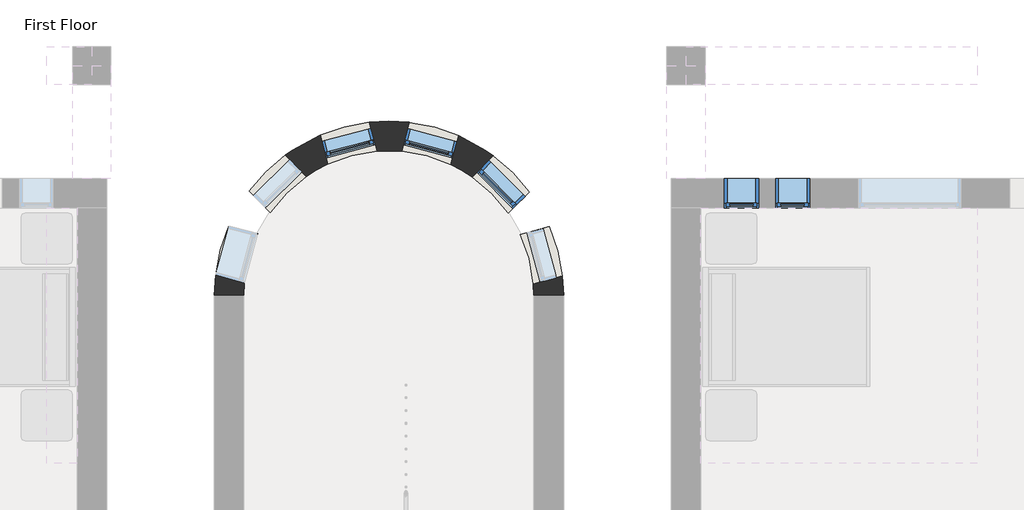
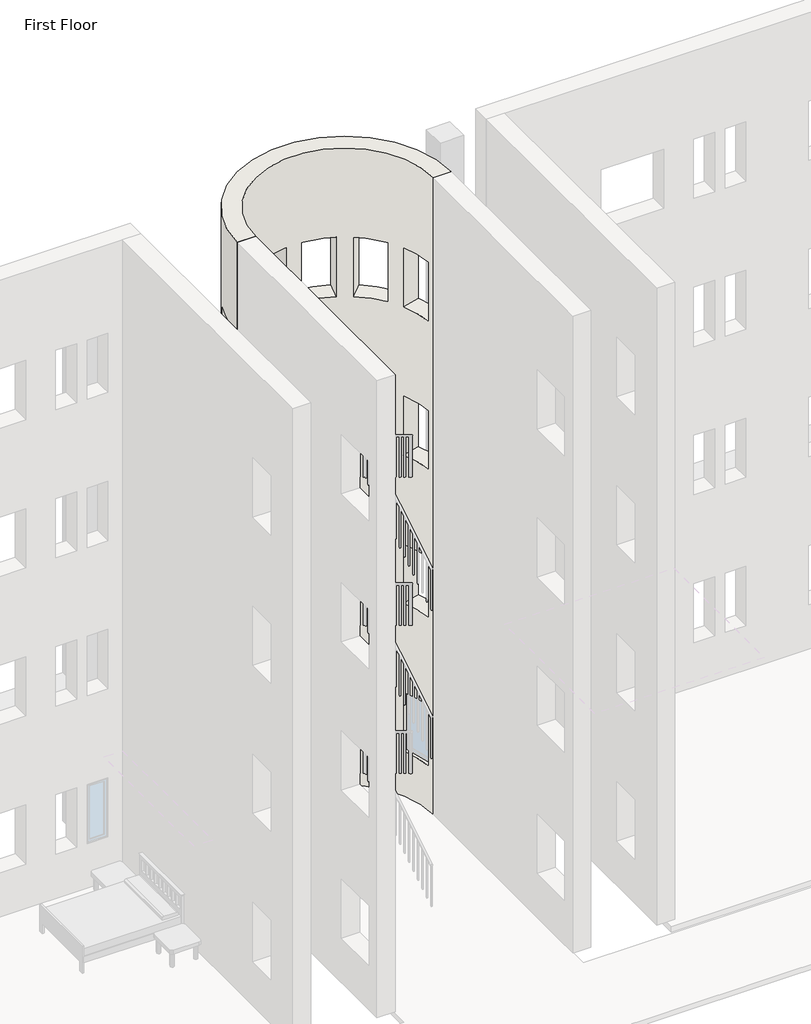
# One storey, part 15 of 21: 5 windows, 1 wall.
"""IFC4 building model written with IfcOpenShell, lengths in millimetres."""

from ifc_helpers import new_model, si_unit, frame, origin, place, context, project, spatial, polyline, circle_curve, transform, mapped, element, save
from ifc_brep_helpers import plane_surface, cylinder_surface, revolved_surface, advanced_brep
from components import window_da97879f, window_80bd9af0

model = new_model("IFC4")

# Units and contexts
model_context = context("Model", 3, world=origin())
ifc_project = project(units=[si_unit("LENGTHUNIT", "METRE", prefix="MILLI")], contexts=[model_context])

# Site, building, storey
site = spatial("IfcSite", under=ifc_project)
building = spatial("IfcBuilding", under=site)
storey = spatial("IfcBuildingStorey", under=building, Name="First Floor", Elevation=0.0)

# Wall
placement = place(None, origin())
element("IfcWall", 1, ObjectType="Exterior - Brick on Mtl. Stud", at=placement, inside=storey, context=model_context, shape_type="AdvancedBrep", body=[
    advanced_brep(
    [(-12853.9589563, 9227.0316867, 13106.4), (-17016.3839563, 9227.0316867, 13106.4), (-16663.9589563, 9227.0316867, 13106.4), (-13206.3839563, 9227.0316867, 13106.4), (-17016.3839563, 9227.0316867, 0.0), (-12853.9589563, 9227.0316867, 0.0), (-13206.3839563, 9227.0316867, 0.0), (-16663.9589563, 9227.0316867, 0.0), (-13022.9261748, 10048.4715527, 8229.6), (-13022.9261748, 10048.4715527, 7010.4), (-12866.9452701, 9459.1650812, 7010.4), (-12866.9452701, 9459.1650812, 8229.6), (-13689.8383973, 10894.5421191, 8229.6), (-13689.8383973, 10894.5421191, 7010.4), (-13260.1017356, 10462.1781965, 7010.4), (-13260.1017356, 10462.1781965, 8229.6), (-14690.4366072, 11293.8046118, 8229.6), (-14690.4366072, 11293.8046118, 7010.4), (-14102.0917799, 11134.234802, 7010.4), (-14102.0917799, 11134.234802, 8229.6), (-15756.6113224, 11139.2769682, 8229.6), (-15756.6113224, 11139.2769682, 7010.4), (-15167.3048508, 11295.2578729, 7010.4), (-15167.3048508, 11295.2578729, 8229.6), (-16602.6818887, 10472.3647457, 8229.6), (-16602.6818887, 10472.3647457, 7010.4), (-16170.3179661, 10902.1014074, 7010.4), (-16170.3179661, 10902.1014074, 8229.6), (-17001.9443814, 9471.7665358, 8229.6), (-17001.9443814, 9471.7665358, 7010.4), (-16842.3745716, 10060.1113631, 7010.4), (-16842.3745716, 10060.1113631, 8229.6), (-13022.9261748, 10048.4715527, 5181.6), (-13022.9261748, 10048.4715527, 3962.4), (-12866.9452701, 9459.1650812, 3962.4), (-12866.9452701, 9459.1650812, 5181.6), (-13689.8383973, 10894.5421191, 5181.6), (-13689.8383973, 10894.5421191, 3962.4), (-13260.1017356, 10462.1781965, 3962.4), (-13260.1017356, 10462.1781965, 5181.6), (-14690.4366072, 11293.8046118, 5181.6), (-14690.4366072, 11293.8046118, 3962.4), (-14102.0917799, 11134.234802, 3962.4), (-14102.0917799, 11134.234802, 5181.6), (-15756.6113224, 11139.2769682, 5181.6), (-15756.6113224, 11139.2769682, 3962.4), (-15167.3048508, 11295.2578729, 3962.4), (-15167.3048508, 11295.2578729, 5181.6), (-16602.6818887, 10472.3647457, 5181.6), (-16602.6818887, 10472.3647457, 3962.4), (-16170.3179661, 10902.1014074, 3962.4), (-16170.3179661, 10902.1014074, 5181.6), (-17001.9443814, 9471.7665358, 5181.6), (-17001.9443814, 9471.7665358, 3962.4), (-16842.3745716, 10060.1113631, 3962.4), (-16842.3745716, 10060.1113631, 5181.6), (-13022.9261748, 10048.4715527, 11277.6), (-13022.9261748, 10048.4715527, 10058.4), (-12866.9452701, 9459.1650812, 10058.4), (-12866.9452701, 9459.1650812, 11277.6), (-13689.8383973, 10894.5421191, 11277.6), (-13689.8383973, 10894.5421191, 10058.4), (-13260.1017356, 10462.1781965, 10058.4), (-13260.1017356, 10462.1781965, 11277.6), (-14690.4366072, 11293.8046118, 11277.6), (-14690.4366072, 11293.8046118, 10058.4), (-14102.0917799, 11134.234802, 10058.4), (-14102.0917799, 11134.234802, 11277.6), (-15756.6113224, 11139.2769682, 11277.6), (-15756.6113224, 11139.2769682, 10058.4), (-15167.3048508, 11295.2578729, 10058.4), (-15167.3048508, 11295.2578729, 11277.6), (-16602.6818887, 10472.3647457, 11277.6), (-16602.6818887, 10472.3647457, 10058.4), (-16170.3179661, 10902.1014074, 10058.4), (-16170.3179661, 10902.1014074, 11277.6), (-17001.9443814, 9471.7665358, 11277.6), (-17001.9443814, 9471.7665358, 10058.4), (-16842.3745716, 10060.1113631, 10058.4), (-16842.3745716, 10060.1113631, 11277.6), (-13022.9261748, 10048.4715527, 2133.6), (-13022.9261748, 10048.4715527, 914.4), (-12866.9452701, 9459.1650812, 914.4), (-12866.9452701, 9459.1650812, 2133.6), (-13689.8383973, 10894.5421191, 2133.6), (-13689.8383973, 10894.5421191, 914.4), (-13260.1017356, 10462.1781965, 914.4), (-13260.1017356, 10462.1781965, 2133.6), (-14690.4366072, 11293.8046118, 2133.6), (-14690.4366072, 11293.8046118, 914.4), (-14102.0917799, 11134.234802, 914.4), (-14102.0917799, 11134.234802, 2133.6), (-15756.6113224, 11139.2769682, 2133.6), (-15756.6113224, 11139.2769682, 914.4), (-15167.3048508, 11295.2578729, 914.4), (-15167.3048508, 11295.2578729, 2133.6), (-16602.6818887, 10472.3647457, 2133.6), (-16602.6818887, 10472.3647457, 914.4), (-16170.3179661, 10902.1014074, 914.4), (-16170.3179661, 10902.1014074, 2133.6), (-17001.9443814, 9471.7665358, 914.4), (-16842.3745716, 10060.1113631, 914.4), (-16842.3745716, 10060.1113631, 2133.6), (-17001.9443814, 9471.7665358, 2133.6), (-13368.1055834, 9957.1075528, 7010.4), (-13368.1055834, 9957.1075528, 8229.6), (-13212.1246787, 9367.8010813, 8229.6), (-13212.1246787, 9367.8010813, 7010.4), (-13943.090534, 10642.8288698, 7010.4), (-13943.090534, 10642.8288698, 8229.6), (-13513.3538723, 10210.4649472, 8229.6), (-13513.3538723, 10210.4649472, 7010.4), (-14783.9027666, 10949.188475, 7010.4), (-14783.9027666, 10949.188475, 8229.6), (-14195.5579393, 10789.6186653, 8229.6), (-14195.5579393, 10789.6186653, 7010.4), (-15665.2473224, 10794.0975596, 7010.4), (-15665.2473224, 10794.0975596, 8229.6), (-15075.9408509, 10950.0784643, 8229.6), (-15075.9408509, 10950.0784643, 7010.4), (-16350.9686395, 10219.112609, 7010.4), (-16350.9686395, 10219.112609, 8229.6), (-15918.6047169, 10648.8492707, 8229.6), (-15918.6047169, 10648.8492707, 7010.4), (-16657.3282447, 9378.3003764, 7010.4), (-16657.3282447, 9378.3003764, 8229.6), (-16497.7584349, 9966.6452037, 8229.6), (-16497.7584349, 9966.6452037, 7010.4), (-13368.1055834, 9957.1075528, 3962.4), (-13368.1055834, 9957.1075528, 5181.6), (-13212.1246787, 9367.8010813, 5181.6), (-13212.1246787, 9367.8010813, 3962.4), (-13943.090534, 10642.8288698, 3962.4), (-13943.090534, 10642.8288698, 5181.6), (-13513.3538723, 10210.4649472, 5181.6), (-13513.3538723, 10210.4649472, 3962.4), (-14783.9027666, 10949.188475, 3962.4), (-14783.9027666, 10949.188475, 5181.6), (-14195.5579393, 10789.6186653, 5181.6), (-14195.5579393, 10789.6186653, 3962.4), (-15665.2473224, 10794.0975596, 3962.4), (-15665.2473224, 10794.0975596, 5181.6), (-15075.9408509, 10950.0784643, 5181.6), (-15075.9408509, 10950.0784643, 3962.4), (-16350.9686395, 10219.112609, 3962.4), (-16350.9686395, 10219.112609, 5181.6), (-15918.6047169, 10648.8492707, 5181.6), (-15918.6047169, 10648.8492707, 3962.4), (-16657.3282447, 9378.3003764, 3962.4), (-16657.3282447, 9378.3003764, 5181.6), (-16497.7584349, 9966.6452037, 5181.6), (-16497.7584349, 9966.6452037, 3962.4), (-13368.1055834, 9957.1075528, 10058.4), (-13368.1055834, 9957.1075528, 11277.6), (-13212.1246787, 9367.8010813, 11277.6), (-13212.1246787, 9367.8010813, 10058.4), (-13943.090534, 10642.8288698, 10058.4), (-13943.090534, 10642.8288698, 11277.6), (-13513.3538723, 10210.4649472, 11277.6), (-13513.3538723, 10210.4649472, 10058.4), (-14783.9027666, 10949.188475, 10058.4), (-14783.9027666, 10949.188475, 11277.6), (-14195.5579393, 10789.6186653, 11277.6), (-14195.5579393, 10789.6186653, 10058.4), (-15665.2473224, 10794.0975596, 10058.4), (-15665.2473224, 10794.0975596, 11277.6), (-15075.9408509, 10950.0784643, 11277.6), (-15075.9408509, 10950.0784643, 10058.4), (-16350.9686395, 10219.112609, 10058.4), (-16350.9686395, 10219.112609, 11277.6), (-15918.6047169, 10648.8492707, 11277.6), (-15918.6047169, 10648.8492707, 10058.4), (-16657.3282447, 9378.3003764, 10058.4), (-16657.3282447, 9378.3003764, 11277.6), (-16497.7584349, 9966.6452037, 11277.6), (-16497.7584349, 9966.6452037, 10058.4), (-13368.1055834, 9957.1075528, 914.4), (-13368.1055834, 9957.1075528, 2133.6), (-13212.1246787, 9367.8010813, 2133.6), (-13212.1246787, 9367.8010813, 914.4), (-13943.090534, 10642.8288698, 914.4), (-13943.090534, 10642.8288698, 2133.6), (-13513.3538723, 10210.4649472, 2133.6), (-13513.3538723, 10210.4649472, 914.4), (-14783.9027666, 10949.188475, 914.4), (-14783.9027666, 10949.188475, 2133.6), (-14195.5579393, 10789.6186653, 2133.6), (-14195.5579393, 10789.6186653, 914.4), (-15665.2473224, 10794.0975596, 914.4), (-15665.2473224, 10794.0975596, 2133.6), (-15075.9408509, 10950.0784643, 2133.6), (-15075.9408509, 10950.0784643, 914.4), (-16350.9686395, 10219.112609, 914.4), (-16350.9686395, 10219.112609, 2133.6), (-15918.6047169, 10648.8492707, 2133.6), (-15918.6047169, 10648.8492707, 914.4), (-16497.7584349, 9966.6452037, 914.4), (-16657.3282447, 9378.3003764, 914.4), (-16657.3282447, 9378.3003764, 2133.6), (-16497.7584349, 9966.6452037, 2133.6)],
    [
        (0, 1, circle_curve(frame((-14935.1714563, 9227.0316867, 13106.4), z_axis=(0.0, 0.0, 1.0), x_axis=(1.0, 0.0, 0.0)), 2081.2125)),
        (1, 2),
        (2, 3, circle_curve(frame((-14935.1714563, 9227.0316867, 13106.4), z_axis=(0.0, 0.0, -1.0), x_axis=(1.0, 0.0, 0.0)), 1728.7875)),
        (3, 0),
        (4, 5, circle_curve(frame((-14935.1714563, 9227.0316867, 0.0), z_axis=(0.0, 0.0, -1.0), x_axis=(1.0, 0.0, 0.0)), 2081.2125)),
        (5, 6),
        (6, 7, circle_curve(frame((-14935.1714563, 9227.0316867, 0.0), z_axis=(0.0, 0.0, 1.0), x_axis=(1.0, 0.0, 0.0)), 1728.7875)),
        (7, 4),
        (0, 5),
        (4, 1),
        (8, 9),
        (9, 10, circle_curve(frame((-14935.1714563, 9227.0316867, 7010.4), z_axis=(0.0, 0.0, -1.0), x_axis=(1.0, 0.0, 0.0)), 2081.2125)),
        (10, 11),
        (11, 8, circle_curve(frame((-14935.1714563, 9227.0316867, 8229.6), z_axis=(0.0, 0.0, 1.0), x_axis=(1.0, 0.0, 0.0)), 2081.2125)),
        (12, 13),
        (13, 14, circle_curve(frame((-14935.1714563, 9227.0316867, 7010.4), z_axis=(0.0, 0.0, -1.0), x_axis=(1.0, 0.0, 0.0)), 2081.2125)),
        (14, 15),
        (15, 12, circle_curve(frame((-14935.1714563, 9227.0316867, 8229.6), z_axis=(0.0, 0.0, 1.0), x_axis=(1.0, 0.0, 0.0)), 2081.2125)),
        (16, 17),
        (17, 18, circle_curve(frame((-14935.1714563, 9227.0316867, 7010.4), z_axis=(0.0, 0.0, -1.0), x_axis=(1.0, 0.0, 0.0)), 2081.2125)),
        (18, 19),
        (19, 16, circle_curve(frame((-14935.1714563, 9227.0316867, 8229.6), z_axis=(0.0, 0.0, 1.0), x_axis=(1.0, 0.0, 0.0)), 2081.2125)),
        (20, 21),
        (21, 22, circle_curve(frame((-14935.1714563, 9227.0316867, 7010.4), z_axis=(0.0, 0.0, -1.0), x_axis=(1.0, 0.0, 0.0)), 2081.2125)),
        (22, 23),
        (23, 20, circle_curve(frame((-14935.1714563, 9227.0316867, 8229.6), z_axis=(0.0, 0.0, 1.0), x_axis=(1.0, 0.0, 0.0)), 2081.2125)),
        (24, 25),
        (25, 26, circle_curve(frame((-14935.1714563, 9227.0316867, 7010.4), z_axis=(0.0, 0.0, -1.0), x_axis=(1.0, 0.0, 0.0)), 2081.2125)),
        (26, 27),
        (27, 24, circle_curve(frame((-14935.1714563, 9227.0316867, 8229.6), z_axis=(0.0, 0.0, 1.0), x_axis=(1.0, 0.0, 0.0)), 2081.2125)),
        (28, 29),
        (29, 30, circle_curve(frame((-14935.1714563, 9227.0316867, 7010.4), z_axis=(0.0, 0.0, -1.0), x_axis=(1.0, 0.0, 0.0)), 2081.2125)),
        (30, 31),
        (31, 28, circle_curve(frame((-14935.1714563, 9227.0316867, 8229.6), z_axis=(0.0, 0.0, 1.0), x_axis=(1.0, 0.0, 0.0)), 2081.2125)),
        (32, 33),
        (33, 34, circle_curve(frame((-14935.1714563, 9227.0316867, 3962.4), z_axis=(0.0, 0.0, -1.0), x_axis=(1.0, 0.0, 0.0)), 2081.2125)),
        (34, 35),
        (35, 32, circle_curve(frame((-14935.1714563, 9227.0316867, 5181.6), z_axis=(0.0, 0.0, 1.0), x_axis=(1.0, 0.0, 0.0)), 2081.2125)),
        (36, 37),
        (37, 38, circle_curve(frame((-14935.1714563, 9227.0316867, 3962.4), z_axis=(0.0, 0.0, -1.0), x_axis=(1.0, 0.0, 0.0)), 2081.2125)),
        (38, 39),
        (39, 36, circle_curve(frame((-14935.1714563, 9227.0316867, 5181.6), z_axis=(0.0, 0.0, 1.0), x_axis=(1.0, 0.0, 0.0)), 2081.2125)),
        (40, 41),
        (41, 42, circle_curve(frame((-14935.1714563, 9227.0316867, 3962.4), z_axis=(0.0, 0.0, -1.0), x_axis=(1.0, 0.0, 0.0)), 2081.2125)),
        (42, 43),
        (43, 40, circle_curve(frame((-14935.1714563, 9227.0316867, 5181.6), z_axis=(0.0, 0.0, 1.0), x_axis=(1.0, 0.0, 0.0)), 2081.2125)),
        (44, 45),
        (45, 46, circle_curve(frame((-14935.1714563, 9227.0316867, 3962.4), z_axis=(0.0, 0.0, -1.0), x_axis=(1.0, 0.0, 0.0)), 2081.2125)),
        (46, 47),
        (47, 44, circle_curve(frame((-14935.1714563, 9227.0316867, 5181.6), z_axis=(0.0, 0.0, 1.0), x_axis=(1.0, 0.0, 0.0)), 2081.2125)),
        (48, 49),
        (49, 50, circle_curve(frame((-14935.1714563, 9227.0316867, 3962.4), z_axis=(0.0, 0.0, -1.0), x_axis=(1.0, 0.0, 0.0)), 2081.2125)),
        (50, 51),
        (51, 48, circle_curve(frame((-14935.1714563, 9227.0316867, 5181.6), z_axis=(0.0, 0.0, 1.0), x_axis=(1.0, 0.0, 0.0)), 2081.2125)),
        (52, 53),
        (53, 54, circle_curve(frame((-14935.1714563, 9227.0316867, 3962.4), z_axis=(0.0, 0.0, -1.0), x_axis=(1.0, 0.0, 0.0)), 2081.2125)),
        (54, 55),
        (55, 52, circle_curve(frame((-14935.1714563, 9227.0316867, 5181.6), z_axis=(0.0, 0.0, 1.0), x_axis=(1.0, 0.0, 0.0)), 2081.2125)),
        (56, 57),
        (57, 58, circle_curve(frame((-14935.1714563, 9227.0316867, 10058.4), z_axis=(0.0, 0.0, -1.0), x_axis=(1.0, 0.0, 0.0)), 2081.2125)),
        (58, 59),
        (59, 56, circle_curve(frame((-14935.1714563, 9227.0316867, 11277.6), z_axis=(0.0, 0.0, 1.0), x_axis=(1.0, 0.0, 0.0)), 2081.2125)),
        (60, 61),
        (61, 62, circle_curve(frame((-14935.1714563, 9227.0316867, 10058.4), z_axis=(0.0, 0.0, -1.0), x_axis=(1.0, 0.0, 0.0)), 2081.2125)),
        (62, 63),
        (63, 60, circle_curve(frame((-14935.1714563, 9227.0316867, 11277.6), z_axis=(0.0, 0.0, 1.0), x_axis=(1.0, 0.0, 0.0)), 2081.2125)),
        (64, 65),
        (65, 66, circle_curve(frame((-14935.1714563, 9227.0316867, 10058.4), z_axis=(0.0, 0.0, -1.0), x_axis=(1.0, 0.0, 0.0)), 2081.2125)),
        (66, 67),
        (67, 64, circle_curve(frame((-14935.1714563, 9227.0316867, 11277.6), z_axis=(0.0, 0.0, 1.0), x_axis=(1.0, 0.0, 0.0)), 2081.2125)),
        (68, 69),
        (69, 70, circle_curve(frame((-14935.1714563, 9227.0316867, 10058.4), z_axis=(0.0, 0.0, -1.0), x_axis=(1.0, 0.0, 0.0)), 2081.2125)),
        (70, 71),
        (71, 68, circle_curve(frame((-14935.1714563, 9227.0316867, 11277.6), z_axis=(0.0, 0.0, 1.0), x_axis=(1.0, 0.0, 0.0)), 2081.2125)),
        (72, 73),
        (73, 74, circle_curve(frame((-14935.1714563, 9227.0316867, 10058.4), z_axis=(0.0, 0.0, -1.0), x_axis=(1.0, 0.0, 0.0)), 2081.2125)),
        (74, 75),
        (75, 72, circle_curve(frame((-14935.1714563, 9227.0316867, 11277.6), z_axis=(0.0, 0.0, 1.0), x_axis=(1.0, 0.0, 0.0)), 2081.2125)),
        (76, 77),
        (77, 78, circle_curve(frame((-14935.1714563, 9227.0316867, 10058.4), z_axis=(0.0, 0.0, -1.0), x_axis=(1.0, 0.0, 0.0)), 2081.2125)),
        (78, 79),
        (79, 76, circle_curve(frame((-14935.1714563, 9227.0316867, 11277.6), z_axis=(0.0, 0.0, 1.0), x_axis=(1.0, 0.0, 0.0)), 2081.2125)),
        (80, 81),
        (81, 82, circle_curve(frame((-14935.1714563, 9227.0316867, 914.4), z_axis=(0.0, 0.0, -1.0), x_axis=(1.0, 0.0, 0.0)), 2081.2125)),
        (82, 83),
        (83, 80, circle_curve(frame((-14935.1714563, 9227.0316867, 2133.6), z_axis=(0.0, 0.0, 1.0), x_axis=(1.0, 0.0, 0.0)), 2081.2125)),
        (84, 85),
        (85, 86, circle_curve(frame((-14935.1714563, 9227.0316867, 914.4), z_axis=(0.0, 0.0, -1.0), x_axis=(1.0, 0.0, 0.0)), 2081.2125)),
        (86, 87),
        (87, 84, circle_curve(frame((-14935.1714563, 9227.0316867, 2133.6), z_axis=(0.0, 0.0, 1.0), x_axis=(1.0, 0.0, 0.0)), 2081.2125)),
        (88, 89),
        (89, 90, circle_curve(frame((-14935.1714563, 9227.0316867, 914.4), z_axis=(0.0, 0.0, -1.0), x_axis=(1.0, 0.0, 0.0)), 2081.2125)),
        (90, 91),
        (91, 88, circle_curve(frame((-14935.1714563, 9227.0316867, 2133.6), z_axis=(0.0, 0.0, 1.0), x_axis=(1.0, 0.0, 0.0)), 2081.2125)),
        (92, 93),
        (93, 94, circle_curve(frame((-14935.1714563, 9227.0316867, 914.4), z_axis=(0.0, 0.0, -1.0), x_axis=(1.0, 0.0, 0.0)), 2081.2125)),
        (94, 95),
        (95, 92, circle_curve(frame((-14935.1714563, 9227.0316867, 2133.6), z_axis=(0.0, 0.0, 1.0), x_axis=(1.0, 0.0, 0.0)), 2081.2125)),
        (96, 97),
        (97, 98, circle_curve(frame((-14935.1714563, 9227.0316867, 914.4), z_axis=(0.0, 0.0, -1.0), x_axis=(1.0, 0.0, 0.0)), 2081.2125)),
        (98, 99),
        (99, 96, circle_curve(frame((-14935.1714563, 9227.0316867, 2133.6), z_axis=(0.0, 0.0, 1.0), x_axis=(1.0, 0.0, 0.0)), 2081.2125)),
        (100, 101, circle_curve(frame((-14935.1714563, 9227.0316867, 914.4), z_axis=(0.0, 0.0, -1.0), x_axis=(1.0, 0.0, 0.0)), 2081.2125)),
        (101, 102),
        (102, 103, circle_curve(frame((-14935.1714563, 9227.0316867, 2133.6), z_axis=(0.0, 0.0, 1.0), x_axis=(1.0, 0.0, 0.0)), 2081.2125)),
        (103, 100),
        (7, 2),
        (6, 3),
        (104, 105),
        (105, 106, circle_curve(frame((-14935.1714563, 9227.0316867, 8229.6), z_axis=(0.0, 0.0, -1.0), x_axis=(1.0, 0.0, 0.0)), 1728.7875)),
        (106, 107),
        (107, 104, circle_curve(frame((-14935.1714563, 9227.0316867, 7010.4), z_axis=(0.0, 0.0, 1.0), x_axis=(1.0, 0.0, 0.0)), 1728.7875)),
        (108, 109),
        (109, 110, circle_curve(frame((-14935.1714563, 9227.0316867, 8229.6), z_axis=(0.0, 0.0, -1.0), x_axis=(1.0, 0.0, 0.0)), 1728.7875)),
        (110, 111),
        (111, 108, circle_curve(frame((-14935.1714563, 9227.0316867, 7010.4), z_axis=(0.0, 0.0, 1.0), x_axis=(1.0, 0.0, 0.0)), 1728.7875)),
        (112, 113),
        (113, 114, circle_curve(frame((-14935.1714563, 9227.0316867, 8229.6), z_axis=(0.0, 0.0, -1.0), x_axis=(1.0, 0.0, 0.0)), 1728.7875)),
        (114, 115),
        (115, 112, circle_curve(frame((-14935.1714563, 9227.0316867, 7010.4), z_axis=(0.0, 0.0, 1.0), x_axis=(1.0, 0.0, 0.0)), 1728.7875)),
        (116, 117),
        (117, 118, circle_curve(frame((-14935.1714563, 9227.0316867, 8229.6), z_axis=(0.0, 0.0, -1.0), x_axis=(1.0, 0.0, 0.0)), 1728.7875)),
        (118, 119),
        (119, 116, circle_curve(frame((-14935.1714563, 9227.0316867, 7010.4), z_axis=(0.0, 0.0, 1.0), x_axis=(1.0, 0.0, 0.0)), 1728.7875)),
        (120, 121),
        (121, 122, circle_curve(frame((-14935.1714563, 9227.0316867, 8229.6), z_axis=(0.0, 0.0, -1.0), x_axis=(1.0, 0.0, 0.0)), 1728.7875)),
        (122, 123),
        (123, 120, circle_curve(frame((-14935.1714563, 9227.0316867, 7010.4), z_axis=(0.0, 0.0, 1.0), x_axis=(1.0, 0.0, 0.0)), 1728.7875)),
        (124, 125),
        (125, 126, circle_curve(frame((-14935.1714563, 9227.0316867, 8229.6), z_axis=(0.0, 0.0, -1.0), x_axis=(1.0, 0.0, 0.0)), 1728.7875)),
        (126, 127),
        (127, 124, circle_curve(frame((-14935.1714563, 9227.0316867, 7010.4), z_axis=(0.0, 0.0, 1.0), x_axis=(1.0, 0.0, 0.0)), 1728.7875)),
        (128, 129),
        (129, 130, circle_curve(frame((-14935.1714563, 9227.0316867, 5181.6), z_axis=(0.0, 0.0, -1.0), x_axis=(1.0, 0.0, 0.0)), 1728.7875)),
        (130, 131),
        (131, 128, circle_curve(frame((-14935.1714563, 9227.0316867, 3962.4), z_axis=(0.0, 0.0, 1.0), x_axis=(1.0, 0.0, 0.0)), 1728.7875)),
        (132, 133),
        (133, 134, circle_curve(frame((-14935.1714563, 9227.0316867, 5181.6), z_axis=(0.0, 0.0, -1.0), x_axis=(1.0, 0.0, 0.0)), 1728.7875)),
        (134, 135),
        (135, 132, circle_curve(frame((-14935.1714563, 9227.0316867, 3962.4), z_axis=(0.0, 0.0, 1.0), x_axis=(1.0, 0.0, 0.0)), 1728.7875)),
        (136, 137),
        (137, 138, circle_curve(frame((-14935.1714563, 9227.0316867, 5181.6), z_axis=(0.0, 0.0, -1.0), x_axis=(1.0, 0.0, 0.0)), 1728.7875)),
        (138, 139),
        (139, 136, circle_curve(frame((-14935.1714563, 9227.0316867, 3962.4), z_axis=(0.0, 0.0, 1.0), x_axis=(1.0, 0.0, 0.0)), 1728.7875)),
        (140, 141),
        (141, 142, circle_curve(frame((-14935.1714563, 9227.0316867, 5181.6), z_axis=(0.0, 0.0, -1.0), x_axis=(1.0, 0.0, 0.0)), 1728.7875)),
        (142, 143),
        (143, 140, circle_curve(frame((-14935.1714563, 9227.0316867, 3962.4), z_axis=(0.0, 0.0, 1.0), x_axis=(1.0, 0.0, 0.0)), 1728.7875)),
        (144, 145),
        (145, 146, circle_curve(frame((-14935.1714563, 9227.0316867, 5181.6), z_axis=(0.0, 0.0, -1.0), x_axis=(1.0, 0.0, 0.0)), 1728.7875)),
        (146, 147),
        (147, 144, circle_curve(frame((-14935.1714563, 9227.0316867, 3962.4), z_axis=(0.0, 0.0, 1.0), x_axis=(1.0, 0.0, 0.0)), 1728.7875)),
        (148, 149),
        (149, 150, circle_curve(frame((-14935.1714563, 9227.0316867, 5181.6), z_axis=(0.0, 0.0, -1.0), x_axis=(1.0, 0.0, 0.0)), 1728.7875)),
        (150, 151),
        (151, 148, circle_curve(frame((-14935.1714563, 9227.0316867, 3962.4), z_axis=(0.0, 0.0, 1.0), x_axis=(1.0, 0.0, 0.0)), 1728.7875)),
        (152, 153),
        (153, 154, circle_curve(frame((-14935.1714563, 9227.0316867, 11277.6), z_axis=(0.0, 0.0, -1.0), x_axis=(1.0, 0.0, 0.0)), 1728.7875)),
        (154, 155),
        (155, 152, circle_curve(frame((-14935.1714563, 9227.0316867, 10058.4), z_axis=(0.0, 0.0, 1.0), x_axis=(1.0, 0.0, 0.0)), 1728.7875)),
        (156, 157),
        (157, 158, circle_curve(frame((-14935.1714563, 9227.0316867, 11277.6), z_axis=(0.0, 0.0, -1.0), x_axis=(1.0, 0.0, 0.0)), 1728.7875)),
        (158, 159),
        (159, 156, circle_curve(frame((-14935.1714563, 9227.0316867, 10058.4), z_axis=(0.0, 0.0, 1.0), x_axis=(1.0, 0.0, 0.0)), 1728.7875)),
        (160, 161),
        (161, 162, circle_curve(frame((-14935.1714563, 9227.0316867, 11277.6), z_axis=(0.0, 0.0, -1.0), x_axis=(1.0, 0.0, 0.0)), 1728.7875)),
        (162, 163),
        (163, 160, circle_curve(frame((-14935.1714563, 9227.0316867, 10058.4), z_axis=(0.0, 0.0, 1.0), x_axis=(1.0, 0.0, 0.0)), 1728.7875)),
        (164, 165),
        (165, 166, circle_curve(frame((-14935.1714563, 9227.0316867, 11277.6), z_axis=(0.0, 0.0, -1.0), x_axis=(1.0, 0.0, 0.0)), 1728.7875)),
        (166, 167),
        (167, 164, circle_curve(frame((-14935.1714563, 9227.0316867, 10058.4), z_axis=(0.0, 0.0, 1.0), x_axis=(1.0, 0.0, 0.0)), 1728.7875)),
        (168, 169),
        (169, 170, circle_curve(frame((-14935.1714563, 9227.0316867, 11277.6), z_axis=(0.0, 0.0, -1.0), x_axis=(1.0, 0.0, 0.0)), 1728.7875)),
        (170, 171),
        (171, 168, circle_curve(frame((-14935.1714563, 9227.0316867, 10058.4), z_axis=(0.0, 0.0, 1.0), x_axis=(1.0, 0.0, 0.0)), 1728.7875)),
        (172, 173),
        (173, 174, circle_curve(frame((-14935.1714563, 9227.0316867, 11277.6), z_axis=(0.0, 0.0, -1.0), x_axis=(1.0, 0.0, 0.0)), 1728.7875)),
        (174, 175),
        (175, 172, circle_curve(frame((-14935.1714563, 9227.0316867, 10058.4), z_axis=(0.0, 0.0, 1.0), x_axis=(1.0, 0.0, 0.0)), 1728.7875)),
        (176, 177),
        (177, 178, circle_curve(frame((-14935.1714563, 9227.0316867, 2133.6), z_axis=(0.0, 0.0, -1.0), x_axis=(1.0, 0.0, 0.0)), 1728.7875)),
        (178, 179),
        (179, 176, circle_curve(frame((-14935.1714563, 9227.0316867, 914.4), z_axis=(0.0, 0.0, 1.0), x_axis=(1.0, 0.0, 0.0)), 1728.7875)),
        (180, 181),
        (181, 182, circle_curve(frame((-14935.1714563, 9227.0316867, 2133.6), z_axis=(0.0, 0.0, -1.0), x_axis=(1.0, 0.0, 0.0)), 1728.7875)),
        (182, 183),
        (183, 180, circle_curve(frame((-14935.1714563, 9227.0316867, 914.4), z_axis=(0.0, 0.0, 1.0), x_axis=(1.0, 0.0, 0.0)), 1728.7875)),
        (184, 185),
        (185, 186, circle_curve(frame((-14935.1714563, 9227.0316867, 2133.6), z_axis=(0.0, 0.0, -1.0), x_axis=(1.0, 0.0, 0.0)), 1728.7875)),
        (186, 187),
        (187, 184, circle_curve(frame((-14935.1714563, 9227.0316867, 914.4), z_axis=(0.0, 0.0, 1.0), x_axis=(1.0, 0.0, 0.0)), 1728.7875)),
        (188, 189),
        (189, 190, circle_curve(frame((-14935.1714563, 9227.0316867, 2133.6), z_axis=(0.0, 0.0, -1.0), x_axis=(1.0, 0.0, 0.0)), 1728.7875)),
        (190, 191),
        (191, 188, circle_curve(frame((-14935.1714563, 9227.0316867, 914.4), z_axis=(0.0, 0.0, 1.0), x_axis=(1.0, 0.0, 0.0)), 1728.7875)),
        (192, 193),
        (193, 194, circle_curve(frame((-14935.1714563, 9227.0316867, 2133.6), z_axis=(0.0, 0.0, -1.0), x_axis=(1.0, 0.0, 0.0)), 1728.7875)),
        (194, 195),
        (195, 192, circle_curve(frame((-14935.1714563, 9227.0316867, 914.4), z_axis=(0.0, 0.0, 1.0), x_axis=(1.0, 0.0, 0.0)), 1728.7875)),
        (196, 197, circle_curve(frame((-14935.1714563, 9227.0316867, 914.4), z_axis=(0.0, 0.0, 1.0), x_axis=(1.0, 0.0, 0.0)), 1728.7875)),
        (197, 198),
        (198, 199, circle_curve(frame((-14935.1714563, 9227.0316867, 2133.6), z_axis=(0.0, 0.0, -1.0), x_axis=(1.0, 0.0, 0.0)), 1728.7875)),
        (199, 196),
        (8, 105),
        (104, 9),
        (107, 10),
        (106, 11),
        (12, 109),
        (108, 13),
        (111, 14),
        (110, 15),
        (16, 113),
        (112, 17),
        (115, 18),
        (114, 19),
        (20, 117),
        (116, 21),
        (119, 22),
        (118, 23),
        (24, 121),
        (120, 25),
        (123, 26),
        (122, 27),
        (28, 125),
        (124, 29),
        (127, 30),
        (126, 31),
        (32, 129),
        (128, 33),
        (131, 34),
        (130, 35),
        (36, 133),
        (132, 37),
        (135, 38),
        (134, 39),
        (40, 137),
        (136, 41),
        (139, 42),
        (138, 43),
        (44, 141),
        (140, 45),
        (143, 46),
        (142, 47),
        (48, 145),
        (144, 49),
        (147, 50),
        (146, 51),
        (52, 149),
        (148, 53),
        (151, 54),
        (150, 55),
        (56, 153),
        (152, 57),
        (155, 58),
        (154, 59),
        (60, 157),
        (156, 61),
        (159, 62),
        (158, 63),
        (64, 161),
        (160, 65),
        (163, 66),
        (162, 67),
        (68, 165),
        (164, 69),
        (167, 70),
        (166, 71),
        (72, 169),
        (168, 73),
        (171, 74),
        (170, 75),
        (76, 173),
        (172, 77),
        (175, 78),
        (174, 79),
        (80, 177),
        (176, 81),
        (179, 82),
        (178, 83),
        (84, 181),
        (180, 85),
        (183, 86),
        (182, 87),
        (88, 185),
        (184, 89),
        (187, 90),
        (186, 91),
        (92, 189),
        (188, 93),
        (191, 94),
        (190, 95),
        (96, 193),
        (192, 97),
        (195, 98),
        (194, 99),
        (197, 100),
        (103, 198),
        (196, 101),
        (199, 102),
    ],
    [
        plane_surface(frame((-12853.9589563, 9227.0316867, 13106.4), z_axis=(0.0, 0.0, 1.0), x_axis=(0.0, 1.0, 0.0))),
        plane_surface(frame((-12853.9589563, 9227.0316867, 0.0), z_axis=(0.0, 0.0, -1.0), x_axis=(0.0, -1.0, 0.0))),
        cylinder_surface(frame((-14935.1714563, 9227.0316867, 0.0), z_axis=(0.0, 0.0, 1.0), x_axis=(1.0, 0.0, 0.0)), 2081.2125),
        plane_surface(frame((-17016.3839563, 9227.0316867, 13106.4), z_axis=(0.0, -1.0, 0.0), x_axis=(0.0, 0.0, -1.0))),
        revolved_surface(polyline([(-13206.3839563, 9227.0316867, 0.0), (-13206.3839563, 9227.0316867, 13106.4)]), (-14935.1714563, 9227.0316867, 0.0), (0.0, 0.0, -1.0)),
        plane_surface(frame((-13206.3839563, 9227.0316867, 13106.4), z_axis=(0.0, -1.0, 0.0), x_axis=(0.0, 0.0, -1.0))),
        plane_surface(frame((-13022.9261748, 10048.4715527, 8229.6), z_axis=(0.2558741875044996, -0.9667100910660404, 0.0), x_axis=(-0.9667100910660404, -0.2558741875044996, 0.0))),
        plane_surface(frame((-13022.9261748, 10048.4715527, 7010.4), z_axis=(0.0, 0.0, 1.0), x_axis=(-0.9667100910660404, -0.2558741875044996, 0.0))),
        plane_surface(frame((-12866.9452701, 9459.1650812, 7010.4), z_axis=(-0.2558741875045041, 0.9667100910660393, 0.0), x_axis=(-0.9667100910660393, -0.2558741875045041, 0.0))),
        plane_surface(frame((-12866.9452701, 9459.1650812, 8229.6), z_axis=(0.0, 0.0, -1.0000000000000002), x_axis=(-0.9667100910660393, -0.2558741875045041, 0.0))),
        plane_surface(frame((-13689.8383973, 10894.5421191, 8229.6), z_axis=(0.7049485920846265, -0.7092584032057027, 0.0), x_axis=(-0.7092584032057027, -0.7049485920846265, 0.0))),
        plane_surface(frame((-13689.8383973, 10894.5421191, 7010.4), z_axis=(0.0, 0.0, 1.0), x_axis=(-0.7092584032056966, -0.7049485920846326, 0.0))),
        plane_surface(frame((-13260.1017356, 10462.1781965, 7010.4), z_axis=(-0.7049485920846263, 0.7092584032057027, 0.0), x_axis=(-0.7092584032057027, -0.7049485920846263, 0.0))),
        plane_surface(frame((-13260.1017356, 10462.1781965, 8229.6), z_axis=(0.0, 0.0, -1.0000000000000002), x_axis=(-0.7092584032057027, -0.7049485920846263, 0.0))),
        plane_surface(frame((-14690.4366072, 11293.8046118, 8229.6), z_axis=(0.9651325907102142, -0.26176149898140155, 0.0), x_axis=(-0.26176149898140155, -0.9651325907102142, 0.0))),
        plane_surface(frame((-14690.4366072, 11293.8046118, 7010.4), z_axis=(0.0, 0.0, 1.0), x_axis=(-0.26176149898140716, -0.9651325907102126, 0.0))),
        plane_surface(frame((-14102.0917799, 11134.234802, 7010.4), z_axis=(-0.9651325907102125, 0.26176149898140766, 0.0), x_axis=(-0.26176149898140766, -0.9651325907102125, 0.0))),
        plane_surface(frame((-14102.0917799, 11134.234802, 8229.6), z_axis=(0.0, 0.0, -1.0), x_axis=(-0.26176149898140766, -0.9651325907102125, 0.0))),
        plane_surface(frame((-15756.6113224, 11139.2769682, 8229.6), z_axis=(0.9667100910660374, 0.25587418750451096, 0.0), x_axis=(0.25587418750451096, -0.9667100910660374, 0.0))),
        plane_surface(frame((-15756.6113224, 11139.2769682, 7010.4), z_axis=(0.0, 0.0, 1.0), x_axis=(0.25587418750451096, -0.9667100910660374, 0.0))),
        plane_surface(frame((-15167.3048508, 11295.2578729, 7010.4), z_axis=(-0.9667100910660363, -0.25587418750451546, 0.0), x_axis=(0.25587418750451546, -0.9667100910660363, 0.0))),
        plane_surface(frame((-15167.3048508, 11295.2578729, 8229.6), z_axis=(0.0, 0.0, -1.0000000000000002), x_axis=(0.25587418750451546, -0.9667100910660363, 0.0))),
        plane_surface(frame((-16602.6818887, 10472.3647457, 8229.6), z_axis=(0.7092584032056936, 0.7049485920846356, 0.0), x_axis=(0.7049485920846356, -0.7092584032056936, 0.0))),
        plane_surface(frame((-16602.6818887, 10472.3647457, 7010.4), z_axis=(0.0, 0.0, 1.0), x_axis=(0.7049485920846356, -0.7092584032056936, 0.0))),
        plane_surface(frame((-16170.3179661, 10902.1014074, 7010.4), z_axis=(-0.7092584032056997, -0.7049485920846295, 0.0), x_axis=(0.7049485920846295, -0.7092584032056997, 0.0))),
        plane_surface(frame((-16170.3179661, 10902.1014074, 8229.6), z_axis=(0.0, 0.0, -1.0000000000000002), x_axis=(0.7049485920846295, -0.7092584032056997, 0.0))),
        plane_surface(frame((-17001.9443814, 9471.7665358, 8229.6), z_axis=(0.26176149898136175, 0.965132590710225, 0.0), x_axis=(0.965132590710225, -0.26176149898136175, 0.0))),
        plane_surface(frame((-17001.9443814, 9471.7665358, 7010.4), z_axis=(0.0, 0.0, 1.0), x_axis=(0.9651325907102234, -0.2617614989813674, 0.0))),
        plane_surface(frame((-16842.3745716, 10060.1113631, 7010.4), z_axis=(-0.261761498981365, -0.9651325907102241, 0.0), x_axis=(0.9651325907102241, -0.261761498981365, 0.0))),
        plane_surface(frame((-16842.3745716, 10060.1113631, 8229.6), z_axis=(0.0, 0.0, -1.0), x_axis=(0.9651325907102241, -0.261761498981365, 0.0))),
        plane_surface(frame((-13022.9261748, 10048.4715527, 5181.6), z_axis=(0.2558741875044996, -0.9667100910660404, 0.0), x_axis=(-0.9667100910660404, -0.2558741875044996, 0.0))),
        plane_surface(frame((-13022.9261748, 10048.4715527, 3962.4), z_axis=(0.0, 0.0, 1.0), x_axis=(-0.9667100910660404, -0.2558741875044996, 0.0))),
        plane_surface(frame((-12866.9452701, 9459.1650812, 3962.4), z_axis=(-0.2558741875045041, 0.9667100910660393, 0.0), x_axis=(-0.9667100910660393, -0.2558741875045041, 0.0))),
        plane_surface(frame((-12866.9452701, 9459.1650812, 5181.6), z_axis=(0.0, 0.0, -1.0000000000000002), x_axis=(-0.9667100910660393, -0.2558741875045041, 0.0))),
        plane_surface(frame((-13689.8383973, 10894.5421191, 5181.6), z_axis=(0.7049485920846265, -0.7092584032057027, 0.0), x_axis=(-0.7092584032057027, -0.7049485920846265, 0.0))),
        plane_surface(frame((-13689.8383973, 10894.5421191, 3962.4), z_axis=(0.0, 0.0, 1.0), x_axis=(-0.7092584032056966, -0.7049485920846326, 0.0))),
        plane_surface(frame((-13260.1017356, 10462.1781965, 3962.4), z_axis=(-0.7049485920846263, 0.7092584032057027, 0.0), x_axis=(-0.7092584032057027, -0.7049485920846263, 0.0))),
        plane_surface(frame((-13260.1017356, 10462.1781965, 5181.6), z_axis=(0.0, 0.0, -1.0000000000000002), x_axis=(-0.7092584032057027, -0.7049485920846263, 0.0))),
        plane_surface(frame((-14690.4366072, 11293.8046118, 5181.6), z_axis=(0.9651325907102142, -0.26176149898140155, 0.0), x_axis=(-0.26176149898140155, -0.9651325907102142, 0.0))),
        plane_surface(frame((-14690.4366072, 11293.8046118, 3962.4), z_axis=(0.0, 0.0, 1.0), x_axis=(-0.26176149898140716, -0.9651325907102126, 0.0))),
        plane_surface(frame((-14102.0917799, 11134.234802, 3962.4), z_axis=(-0.9651325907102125, 0.26176149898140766, 0.0), x_axis=(-0.26176149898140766, -0.9651325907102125, 0.0))),
        plane_surface(frame((-14102.0917799, 11134.234802, 5181.6), z_axis=(0.0, 0.0, -1.0), x_axis=(-0.26176149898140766, -0.9651325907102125, 0.0))),
        plane_surface(frame((-15756.6113224, 11139.2769682, 5181.6), z_axis=(0.9667100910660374, 0.25587418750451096, 0.0), x_axis=(0.25587418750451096, -0.9667100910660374, 0.0))),
        plane_surface(frame((-15756.6113224, 11139.2769682, 3962.4), z_axis=(0.0, 0.0, 1.0), x_axis=(0.25587418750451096, -0.9667100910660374, 0.0))),
        plane_surface(frame((-15167.3048508, 11295.2578729, 3962.4), z_axis=(-0.9667100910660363, -0.25587418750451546, 0.0), x_axis=(0.25587418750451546, -0.9667100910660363, 0.0))),
        plane_surface(frame((-15167.3048508, 11295.2578729, 5181.6), z_axis=(0.0, 0.0, -1.0000000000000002), x_axis=(0.25587418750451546, -0.9667100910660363, 0.0))),
        plane_surface(frame((-16602.6818887, 10472.3647457, 5181.6), z_axis=(0.7092584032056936, 0.7049485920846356, 0.0), x_axis=(0.7049485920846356, -0.7092584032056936, 0.0))),
        plane_surface(frame((-16602.6818887, 10472.3647457, 3962.4), z_axis=(0.0, 0.0, 1.0), x_axis=(0.7049485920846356, -0.7092584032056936, 0.0))),
        plane_surface(frame((-16170.3179661, 10902.1014074, 3962.4), z_axis=(-0.7092584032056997, -0.7049485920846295, 0.0), x_axis=(0.7049485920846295, -0.7092584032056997, 0.0))),
        plane_surface(frame((-16170.3179661, 10902.1014074, 5181.6), z_axis=(0.0, 0.0, -1.0000000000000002), x_axis=(0.7049485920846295, -0.7092584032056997, 0.0))),
        plane_surface(frame((-17001.9443814, 9471.7665358, 5181.6), z_axis=(0.26176149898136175, 0.965132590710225, 0.0), x_axis=(0.965132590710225, -0.26176149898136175, 0.0))),
        plane_surface(frame((-17001.9443814, 9471.7665358, 3962.4), z_axis=(0.0, 0.0, 1.0), x_axis=(0.9651325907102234, -0.2617614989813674, 0.0))),
        plane_surface(frame((-16842.3745716, 10060.1113631, 3962.4), z_axis=(-0.261761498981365, -0.9651325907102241, 0.0), x_axis=(0.9651325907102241, -0.261761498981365, 0.0))),
        plane_surface(frame((-16842.3745716, 10060.1113631, 5181.6), z_axis=(0.0, 0.0, -1.0), x_axis=(0.9651325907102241, -0.261761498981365, 0.0))),
        plane_surface(frame((-13022.9261748, 10048.4715527, 11277.6), z_axis=(0.2558741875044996, -0.9667100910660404, 0.0), x_axis=(-0.9667100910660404, -0.2558741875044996, 0.0))),
        plane_surface(frame((-13022.9261748, 10048.4715527, 10058.4), z_axis=(0.0, 0.0, 1.0), x_axis=(-0.9667100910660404, -0.2558741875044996, 0.0))),
        plane_surface(frame((-12866.9452701, 9459.1650812, 10058.4), z_axis=(-0.2558741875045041, 0.9667100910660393, 0.0), x_axis=(-0.9667100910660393, -0.2558741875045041, 0.0))),
        plane_surface(frame((-12866.9452701, 9459.1650812, 11277.6), z_axis=(0.0, 0.0, -1.0000000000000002), x_axis=(-0.9667100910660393, -0.2558741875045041, 0.0))),
        plane_surface(frame((-13689.8383973, 10894.5421191, 11277.6), z_axis=(0.7049485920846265, -0.7092584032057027, 0.0), x_axis=(-0.7092584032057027, -0.7049485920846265, 0.0))),
        plane_surface(frame((-13689.8383973, 10894.5421191, 10058.4), z_axis=(0.0, 0.0, 1.0), x_axis=(-0.7092584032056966, -0.7049485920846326, 0.0))),
        plane_surface(frame((-13260.1017356, 10462.1781965, 10058.4), z_axis=(-0.7049485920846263, 0.7092584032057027, 0.0), x_axis=(-0.7092584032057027, -0.7049485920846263, 0.0))),
        plane_surface(frame((-13260.1017356, 10462.1781965, 11277.6), z_axis=(0.0, 0.0, -1.0000000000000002), x_axis=(-0.7092584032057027, -0.7049485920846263, 0.0))),
        plane_surface(frame((-14690.4366072, 11293.8046118, 11277.6), z_axis=(0.9651325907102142, -0.26176149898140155, 0.0), x_axis=(-0.26176149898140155, -0.9651325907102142, 0.0))),
        plane_surface(frame((-14690.4366072, 11293.8046118, 10058.4), z_axis=(0.0, 0.0, 1.0), x_axis=(-0.26176149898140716, -0.9651325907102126, 0.0))),
        plane_surface(frame((-14102.0917799, 11134.234802, 10058.4), z_axis=(-0.9651325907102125, 0.26176149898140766, 0.0), x_axis=(-0.26176149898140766, -0.9651325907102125, 0.0))),
        plane_surface(frame((-14102.0917799, 11134.234802, 11277.6), z_axis=(0.0, 0.0, -1.0), x_axis=(-0.26176149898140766, -0.9651325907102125, 0.0))),
        plane_surface(frame((-15756.6113224, 11139.2769682, 11277.6), z_axis=(0.9667100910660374, 0.25587418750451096, 0.0), x_axis=(0.25587418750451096, -0.9667100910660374, 0.0))),
        plane_surface(frame((-15756.6113224, 11139.2769682, 10058.4), z_axis=(0.0, 0.0, 1.0), x_axis=(0.25587418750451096, -0.9667100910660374, 0.0))),
        plane_surface(frame((-15167.3048508, 11295.2578729, 10058.4), z_axis=(-0.9667100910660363, -0.25587418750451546, 0.0), x_axis=(0.25587418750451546, -0.9667100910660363, 0.0))),
        plane_surface(frame((-15167.3048508, 11295.2578729, 11277.6), z_axis=(0.0, 0.0, -1.0000000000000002), x_axis=(0.25587418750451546, -0.9667100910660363, 0.0))),
        plane_surface(frame((-16602.6818887, 10472.3647457, 11277.6), z_axis=(0.7092584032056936, 0.7049485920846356, 0.0), x_axis=(0.7049485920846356, -0.7092584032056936, 0.0))),
        plane_surface(frame((-16602.6818887, 10472.3647457, 10058.4), z_axis=(0.0, 0.0, 1.0), x_axis=(0.7049485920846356, -0.7092584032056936, 0.0))),
        plane_surface(frame((-16170.3179661, 10902.1014074, 10058.4), z_axis=(-0.7092584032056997, -0.7049485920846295, 0.0), x_axis=(0.7049485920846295, -0.7092584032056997, 0.0))),
        plane_surface(frame((-16170.3179661, 10902.1014074, 11277.6), z_axis=(0.0, 0.0, -1.0000000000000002), x_axis=(0.7049485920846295, -0.7092584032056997, 0.0))),
        plane_surface(frame((-17001.9443814, 9471.7665358, 11277.6), z_axis=(0.26176149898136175, 0.965132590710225, 0.0), x_axis=(0.965132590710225, -0.26176149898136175, 0.0))),
        plane_surface(frame((-17001.9443814, 9471.7665358, 10058.4), z_axis=(0.0, 0.0, 1.0), x_axis=(0.9651325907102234, -0.2617614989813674, 0.0))),
        plane_surface(frame((-16842.3745716, 10060.1113631, 10058.4), z_axis=(-0.261761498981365, -0.9651325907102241, 0.0), x_axis=(0.9651325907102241, -0.261761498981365, 0.0))),
        plane_surface(frame((-16842.3745716, 10060.1113631, 11277.6), z_axis=(0.0, 0.0, -1.0), x_axis=(0.9651325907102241, -0.261761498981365, 0.0))),
        plane_surface(frame((-13022.9261748, 10048.4715527, 2133.6), z_axis=(0.2558741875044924, -0.9667100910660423, 0.0), x_axis=(-0.9667100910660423, -0.2558741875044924, 0.0))),
        plane_surface(frame((-13022.9261748, 10048.4715527, 914.4), z_axis=(0.0, 0.0, 1.0), x_axis=(-0.9667100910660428, -0.255874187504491, 0.0))),
        plane_surface(frame((-12866.9452701, 9459.1650812, 914.4), z_axis=(-0.2558741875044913, 0.9667100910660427, 0.0), x_axis=(-0.9667100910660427, -0.2558741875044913, 0.0))),
        plane_surface(frame((-12866.9452701, 9459.1650812, 2133.6), z_axis=(0.0, 0.0, -1.0), x_axis=(-0.9667100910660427, -0.2558741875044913, 0.0))),
        plane_surface(frame((-13689.8383973, 10894.5421191, 2133.6), z_axis=(0.7049485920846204, -0.7092584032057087, 0.0), x_axis=(-0.7092584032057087, -0.7049485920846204, 0.0))),
        plane_surface(frame((-13689.8383973, 10894.5421191, 914.4), z_axis=(0.0, 0.0, 1.0000000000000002), x_axis=(-0.7092584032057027, -0.7049485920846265, 0.0))),
        plane_surface(frame((-13260.1017356, 10462.1781965, 914.4), z_axis=(-0.7049485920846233, 0.7092584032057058, 0.0), x_axis=(-0.7092584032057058, -0.7049485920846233, 0.0))),
        plane_surface(frame((-13260.1017356, 10462.1781965, 2133.6), z_axis=(0.0, 0.0, -1.0000000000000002), x_axis=(-0.7092584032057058, -0.7049485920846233, 0.0))),
        plane_surface(frame((-14690.4366072, 11293.8046118, 2133.6), z_axis=(0.9651325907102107, -0.2617614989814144, 0.0), x_axis=(-0.2617614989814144, -0.9651325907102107, 0.0))),
        plane_surface(frame((-14690.4366072, 11293.8046118, 914.4), z_axis=(0.0, 0.0, 1.0), x_axis=(-0.26176149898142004, -0.9651325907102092, 0.0))),
        plane_surface(frame((-14102.0917799, 11134.234802, 914.4), z_axis=(-0.965132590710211, 0.2617614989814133, 0.0), x_axis=(-0.2617614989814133, -0.965132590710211, 0.0))),
        plane_surface(frame((-14102.0917799, 11134.234802, 2133.6), z_axis=(0.0, 0.0, -1.0), x_axis=(-0.2617614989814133, -0.965132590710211, 0.0))),
        plane_surface(frame((-15756.6113224, 11139.2769682, 2133.6), z_axis=(0.9667100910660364, 0.2558741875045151, 0.0), x_axis=(0.2558741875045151, -0.9667100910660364, 0.0))),
        plane_surface(frame((-15756.6113224, 11139.2769682, 914.4), z_axis=(0.0, 0.0, 1.0000000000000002), x_axis=(0.2558741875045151, -0.9667100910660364, 0.0))),
        plane_surface(frame((-15167.3048508, 11295.2578729, 914.4), z_axis=(-0.9667100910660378, -0.2558741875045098, 0.0), x_axis=(0.2558741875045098, -0.9667100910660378, 0.0))),
        plane_surface(frame((-15167.3048508, 11295.2578729, 2133.6), z_axis=(0.0, 0.0, -1.0), x_axis=(0.2558741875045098, -0.9667100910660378, 0.0))),
        plane_surface(frame((-15475.7422576, 9338.5353966, 2133.6), z_axis=(0.7092584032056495, 0.70494859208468, 0.0), x_axis=(-0.70494859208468, 0.7092584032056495, 0.0))),
        plane_surface(frame((-15475.7422576, 9338.5353966, 914.4), z_axis=(0.0, 0.0, 1.0), x_axis=(-0.70494859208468, 0.7092584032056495, 0.0))),
        plane_surface(frame((-15043.378335, 9768.2720583, 914.4), z_axis=(-0.7092584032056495, -0.70494859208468, 0.0), x_axis=(-0.70494859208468, 0.7092584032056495, 0.0))),
        plane_surface(frame((-15043.378335, 9768.2720583, 2133.6), z_axis=(0.0, 0.0, -1.0), x_axis=(-0.70494859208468, 0.7092584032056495, 0.0))),
        plane_surface(frame((-15531.0823131, 9072.8420113, 2133.6), z_axis=(0.26176149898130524, 0.9651325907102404, 0.0), x_axis=(-0.9651325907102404, 0.26176149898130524, 0.0))),
        plane_surface(frame((-15531.0823131, 9072.8420113, 914.4), z_axis=(0.0, 0.0, 1.0000000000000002), x_axis=(-0.9651325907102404, 0.26176149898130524, 0.0))),
        plane_surface(frame((-15371.5125034, 9661.1868386, 914.4), z_axis=(-0.26176149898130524, -0.9651325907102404, 0.0), x_axis=(-0.9651325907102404, 0.26176149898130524, 0.0))),
        plane_surface(frame((-15371.5125034, 9661.1868386, 2133.6), z_axis=(0.0, 0.0, -1.0000000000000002), x_axis=(-0.9651325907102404, 0.26176149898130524, 0.0))),
    ],
    [
        (0, [[1, 2, 3, 4]]),
        (1, [[5, 6, 7, 8]]),
        (2, [[-1, 9, -5, 10], [11, 12, 13, 14], [15, 16, 17, 18], [19, 20, 21, 22], [23, 24, 25, 26], [27, 28, 29, 30], [31, 32, 33, 34], [35, 36, 37, 38], [39, 40, 41, 42], [43, 44, 45, 46], [47, 48, 49, 50], [51, 52, 53, 54], [55, 56, 57, 58], [59, 60, 61, 62], [63, 64, 65, 66], [67, 68, 69, 70], [71, 72, 73, 74], [75, 76, 77, 78], [79, 80, 81, 82], [83, 84, 85, 86], [87, 88, 89, 90], [91, 92, 93, 94], [95, 96, 97, 98], [99, 100, 101, 102], [103, 104, 105, 106]]),
        (3, [[-2, -10, -8, 107]]),
        (4, [[-3, -107, -7, 108], [109, 110, 111, 112], [113, 114, 115, 116], [117, 118, 119, 120], [121, 122, 123, 124], [125, 126, 127, 128], [129, 130, 131, 132], [133, 134, 135, 136], [137, 138, 139, 140], [141, 142, 143, 144], [145, 146, 147, 148], [149, 150, 151, 152], [153, 154, 155, 156], [157, 158, 159, 160], [161, 162, 163, 164], [165, 166, 167, 168], [169, 170, 171, 172], [173, 174, 175, 176], [177, 178, 179, 180], [181, 182, 183, 184], [185, 186, 187, 188], [189, 190, 191, 192], [193, 194, 195, 196], [197, 198, 199, 200], [201, 202, 203, 204]]),
        (5, [[-4, -108, -6, -9]]),
        (6, [[-11, 205, -109, 206]]),
        (7, [[-12, -206, -112, 207]]),
        (8, [[-13, -207, -111, 208]]),
        (9, [[-14, -208, -110, -205]]),
        (10, [[-15, 209, -113, 210]]),
        (11, [[-16, -210, -116, 211]]),
        (12, [[-17, -211, -115, 212]]),
        (13, [[-18, -212, -114, -209]]),
        (14, [[-19, 213, -117, 214]]),
        (15, [[-20, -214, -120, 215]]),
        (16, [[-21, -215, -119, 216]]),
        (17, [[-22, -216, -118, -213]]),
        (18, [[-23, 217, -121, 218]]),
        (19, [[-24, -218, -124, 219]]),
        (20, [[-25, -219, -123, 220]]),
        (21, [[-26, -220, -122, -217]]),
        (22, [[-27, 221, -125, 222]]),
        (23, [[-28, -222, -128, 223]]),
        (24, [[-29, -223, -127, 224]]),
        (25, [[-30, -224, -126, -221]]),
        (26, [[-31, 225, -129, 226]]),
        (27, [[-32, -226, -132, 227]]),
        (28, [[-33, -227, -131, 228]]),
        (29, [[-34, -228, -130, -225]]),
        (30, [[-35, 229, -133, 230]]),
        (31, [[-36, -230, -136, 231]]),
        (32, [[-37, -231, -135, 232]]),
        (33, [[-38, -232, -134, -229]]),
        (34, [[-39, 233, -137, 234]]),
        (35, [[-40, -234, -140, 235]]),
        (36, [[-41, -235, -139, 236]]),
        (37, [[-42, -236, -138, -233]]),
        (38, [[-43, 237, -141, 238]]),
        (39, [[-44, -238, -144, 239]]),
        (40, [[-45, -239, -143, 240]]),
        (41, [[-46, -240, -142, -237]]),
        (42, [[-47, 241, -145, 242]]),
        (43, [[-48, -242, -148, 243]]),
        (44, [[-49, -243, -147, 244]]),
        (45, [[-50, -244, -146, -241]]),
        (46, [[-51, 245, -149, 246]]),
        (47, [[-52, -246, -152, 247]]),
        (48, [[-53, -247, -151, 248]]),
        (49, [[-54, -248, -150, -245]]),
        (50, [[-55, 249, -153, 250]]),
        (51, [[-56, -250, -156, 251]]),
        (52, [[-57, -251, -155, 252]]),
        (53, [[-58, -252, -154, -249]]),
        (54, [[-59, 253, -157, 254]]),
        (55, [[-60, -254, -160, 255]]),
        (56, [[-61, -255, -159, 256]]),
        (57, [[-62, -256, -158, -253]]),
        (58, [[-63, 257, -161, 258]]),
        (59, [[-64, -258, -164, 259]]),
        (60, [[-65, -259, -163, 260]]),
        (61, [[-66, -260, -162, -257]]),
        (62, [[-67, 261, -165, 262]]),
        (63, [[-68, -262, -168, 263]]),
        (64, [[-69, -263, -167, 264]]),
        (65, [[-70, -264, -166, -261]]),
        (66, [[-71, 265, -169, 266]]),
        (67, [[-72, -266, -172, 267]]),
        (68, [[-73, -267, -171, 268]]),
        (69, [[-74, -268, -170, -265]]),
        (70, [[-75, 269, -173, 270]]),
        (71, [[-76, -270, -176, 271]]),
        (72, [[-77, -271, -175, 272]]),
        (73, [[-78, -272, -174, -269]]),
        (74, [[-79, 273, -177, 274]]),
        (75, [[-80, -274, -180, 275]]),
        (76, [[-81, -275, -179, 276]]),
        (77, [[-82, -276, -178, -273]]),
        (78, [[-83, 277, -181, 278]]),
        (79, [[-84, -278, -184, 279]]),
        (80, [[-85, -279, -183, 280]]),
        (81, [[-86, -280, -182, -277]]),
        (82, [[-87, 281, -185, 282]]),
        (83, [[-88, -282, -188, 283]]),
        (84, [[-89, -283, -187, 284]]),
        (85, [[-90, -284, -186, -281]]),
        (86, [[-91, 285, -189, 286]]),
        (87, [[-92, -286, -192, 287]]),
        (88, [[-93, -287, -191, 288]]),
        (89, [[-94, -288, -190, -285]]),
        (90, [[-95, 289, -193, 290]]),
        (91, [[-96, -290, -196, 291]]),
        (92, [[-97, -291, -195, 292]]),
        (93, [[-98, -292, -194, -289]]),
        (94, [[293, -197, 294, -99]]),
        (95, [[-294, -200, 295, -100]]),
        (96, [[-295, -199, 296, -101]]),
        (97, [[-293, -102, -296, -198]]),
        (98, [[297, -106, 298, -202]]),
        (99, [[-297, -201, 299, -103]]),
        (100, [[-299, -204, 300, -104]]),
        (101, [[-300, -203, -298, -105]]),
    ],
),
])

# Windows
window_shape = window_da97879f(model_context)
element("IfcWindow", 2, ObjectType="Fixed : 16\" x 48\"", at=placement, inside=storey, context=model_context, shape_type="MappedRepresentation", body=[
    mapped(window_shape, transform((-10771.1589563, 10446.2316867, 0.0), x_axis=(-1.0, 0.0, 0.0), y_axis=(0.0, -1.0, 0.0), z_axis=(0.0, 0.0, 1.0))),
])
element("IfcWindow", 3, ObjectType="Fixed : 16\" x 48\"", at=placement, inside=storey, context=model_context, shape_type="MappedRepresentation", body=[
    mapped(window_shape, transform((-10161.5589563, 10446.2316867, 0.0), x_axis=(-1.0, 0.0, 0.0), y_axis=(0.0, -1.0, 0.0), z_axis=(0.0, 0.0, 1.0))),
])
window_2_shape = window_80bd9af0(model_context)
element("IfcWindow", 4, ObjectType="Fixed : 24\" x 48\"", at=placement, inside=storey, context=model_context, shape_type="MappedRepresentation", body=[
    mapped(window_2_shape, transform((-15453.7015108, 11037.1722121, 0.0), x_axis=(-0.96671009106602, -0.25587418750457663, 0.0), y_axis=(0.25587418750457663, -0.96671009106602, 0.0), z_axis=(0.0, 0.0, 1.0))),
])
element("IfcWindow", 5, ObjectType="Fixed : 24\" x 48\"", at=placement, inside=storey, context=model_context, shape_type="MappedRepresentation", body=[
    mapped(window_2_shape, transform((-14479.1613934, 11053.9243933, 0.0), x_axis=(-0.9651325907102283, 0.2617614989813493, 0.0), y_axis=(-0.2617614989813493, -0.9651325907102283, 0.0), z_axis=(0.0, 0.0, 1.0))),
])
element("IfcWindow", 6, ObjectType="Fixed : 24\" x 48\"", at=placement, inside=storey, context=model_context, shape_type="MappedRepresentation", body=[
    mapped(window_2_shape, transform((-13626.8088042, 10581.1621492, 0.0), x_axis=(-0.7049485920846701, 0.7092584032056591, 0.0), y_axis=(-0.7092584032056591, -0.7049485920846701, 0.0), z_axis=(0.0, 0.0, 1.0))),
])

save(model, "model.ifc")
